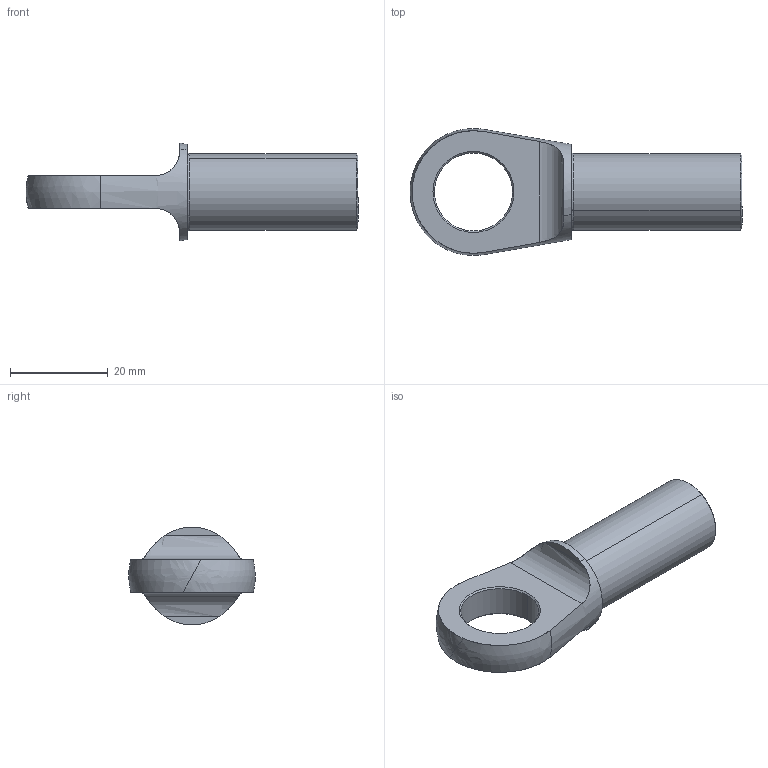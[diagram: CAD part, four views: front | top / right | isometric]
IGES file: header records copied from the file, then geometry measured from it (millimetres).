
Start section: START RECORD GO HERE.
Global section: file name: SU_01004 (Inner Bearing Support).igs; native system: IBM CATIA IGES - CATIA Version 5 Release 19 ; preprocessor: CATIA Version 5 Release 19 ; author: Le Genie; organization: THUNDERBOLT-OF-; date: 20220127.113524; units: millimetre
Bounding box: 68 x 26 x 20.02 mm (x, y, z)
Surface area: 5435.1 mm2 (no closed solid volume)
Topology: 0 solids, 0 shells, 30 faces, 148 edges, 144 vertices
Faces by surface type: revolution 24, plane 6
